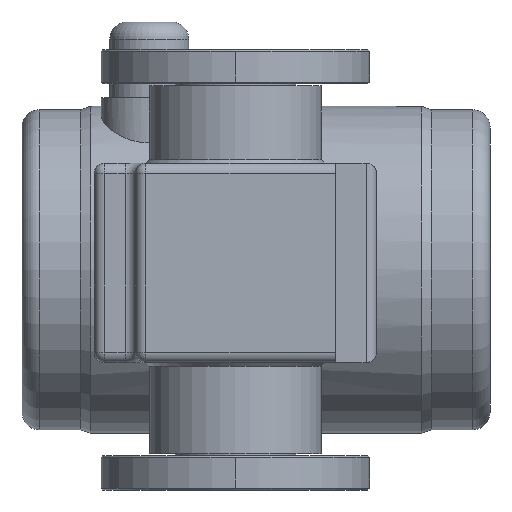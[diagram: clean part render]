
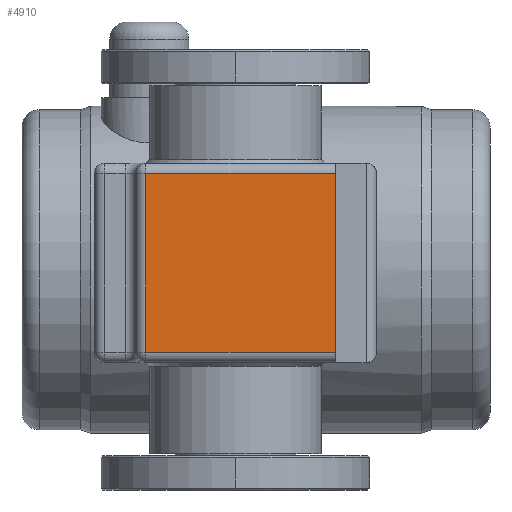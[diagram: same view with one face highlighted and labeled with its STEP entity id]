
A CAD part, front view. The second image highlights one B-rep face of the part: STEP entity #4910.
In plain terms, the highlighted planar face has unit normal (0, -1, 0).
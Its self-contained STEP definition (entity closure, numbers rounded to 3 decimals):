
#140 = LINE ( 'NONE', #3595, #4207 ) ;
#252 = VERTEX_POINT ( 'NONE', #318 ) ;
#318 = CARTESIAN_POINT ( 'NONE',  ( -26., -41., -109. ) ) ;
#351 = DIRECTION ( 'NONE',  ( -1., 0., 0. ) ) ;
#710 = EDGE_CURVE ( 'NONE', #3753, #5210, #2310, .T. ) ;
#908 = ORIENTED_EDGE ( 'NONE', *, *, #3507, .T. ) ;
#974 = CARTESIAN_POINT ( 'NONE',  ( 29., -41., -109. ) ) ;
#1162 = DIRECTION ( 'NONE',  ( 0., 0., -1. ) ) ;
#1642 = FACE_OUTER_BOUND ( 'NONE', #2869, .T. ) ;
#1751 = CARTESIAN_POINT ( 'NONE',  ( 29., -41., -112. ) ) ;
#1916 = ORIENTED_EDGE ( 'NONE', *, *, #3737, .T. ) ;
#1991 = LINE ( 'NONE', #2389, #5117 ) ;
#2088 = DIRECTION ( 'NONE',  ( 0., -1., 0. ) ) ;
#2310 = LINE ( 'NONE', #2834, #3010 ) ;
#2389 = CARTESIAN_POINT ( 'NONE',  ( 29., -41., -112. ) ) ;
#2606 = AXIS2_PLACEMENT_3D ( 'NONE', #1751, #2088, #4445 ) ;
#2724 = CARTESIAN_POINT ( 'NONE',  ( -26., -41., -57. ) ) ;
#2834 = CARTESIAN_POINT ( 'NONE',  ( -29., -41., -57. ) ) ;
#2869 = EDGE_LOOP ( 'NONE', ( #908, #3624, #3707, #1916 ) ) ;
#3010 = VECTOR ( 'NONE', #351, 1000. ) ;
#3213 = PLANE ( 'NONE',  #2606 ) ;
#3507 = EDGE_CURVE ( 'NONE', #4492, #3753, #1991, .T. ) ;
#3595 = CARTESIAN_POINT ( 'NONE',  ( 29., -41., -109. ) ) ;
#3624 = ORIENTED_EDGE ( 'NONE', *, *, #710, .T. ) ;
#3707 = ORIENTED_EDGE ( 'NONE', *, *, #5140, .T. ) ;
#3737 = EDGE_CURVE ( 'NONE', #252, #4492, #140, .T. ) ;
#3753 = VERTEX_POINT ( 'NONE', #4562 ) ;
#3847 = VECTOR ( 'NONE', #1162, 1000. ) ;
#3927 = DIRECTION ( 'NONE',  ( 0., 0., 1. ) ) ;
#3972 = LINE ( 'NONE', #4042, #3847 ) ;
#4042 = CARTESIAN_POINT ( 'NONE',  ( -26., -41., -112. ) ) ;
#4207 = VECTOR ( 'NONE', #4241, 1000. ) ;
#4241 = DIRECTION ( 'NONE',  ( 1., 0., 0. ) ) ;
#4445 = DIRECTION ( 'NONE',  ( 0., 0., -1. ) ) ;
#4492 = VERTEX_POINT ( 'NONE', #974 ) ;
#4562 = CARTESIAN_POINT ( 'NONE',  ( 29., -41., -57. ) ) ;
#4910 = ADVANCED_FACE ( 'NONE', ( #1642 ), #3213, .T. ) ;
#5117 = VECTOR ( 'NONE', #3927, 1000. ) ;
#5140 = EDGE_CURVE ( 'NONE', #5210, #252, #3972, .T. ) ;
#5210 = VERTEX_POINT ( 'NONE', #2724 ) ;
